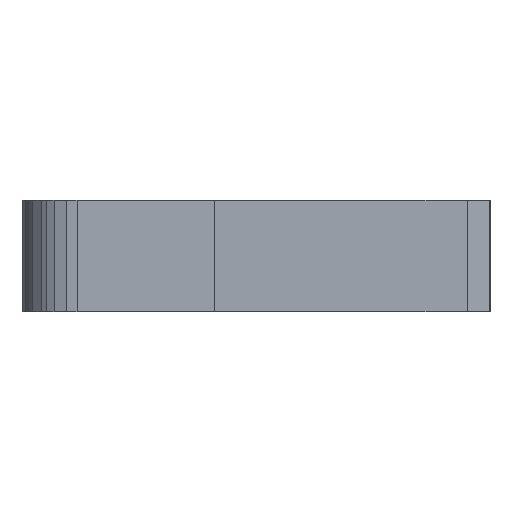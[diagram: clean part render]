
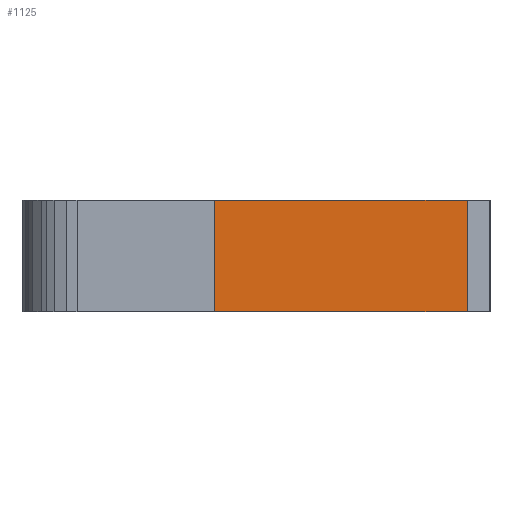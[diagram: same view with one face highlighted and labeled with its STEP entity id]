
A CAD part, left-side view. The second image highlights one B-rep face of the part: STEP entity #1125.
In plain terms, the highlighted planar face has unit normal (-1, 0, 0).
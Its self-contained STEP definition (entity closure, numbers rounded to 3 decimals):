
#72 = PLANE('',#73);
#73 = AXIS2_PLACEMENT_3D('',#74,#75,#76);
#74 = CARTESIAN_POINT('',(-2.801,-14.621,14.25));
#75 = DIRECTION('',(-0.,-0.,-1.));
#76 = DIRECTION('',(-1.,0.,0.));
#126 = PLANE('',#127);
#127 = AXIS2_PLACEMENT_3D('',#128,#129,#130);
#128 = CARTESIAN_POINT('',(-2.801,-14.621,11.83));
#129 = DIRECTION('',(-0.,-0.,-1.));
#130 = DIRECTION('',(-1.,0.,0.));
#1017 = PLANE('',#1018);
#1018 = AXIS2_PLACEMENT_3D('',#1019,#1020,#1021);
#1019 = CARTESIAN_POINT('',(-3.3,-20.5,11.83));
#1020 = DIRECTION('',(-0.707,-0.707,0.));
#1021 = DIRECTION('',(-0.707,0.707,0.));
#1055 = VERTEX_POINT('',#1056);
#1056 = CARTESIAN_POINT('',(-3.8,-20.,14.25));
#1077 = EDGE_CURVE('',#1078,#1055,#1080,.T.);
#1078 = VERTEX_POINT('',#1079);
#1079 = CARTESIAN_POINT('',(-3.8,-20.,11.83));
#1080 = SURFACE_CURVE('',#1081,(#1085,#1092),.PCURVE_S1.);
#1081 = LINE('',#1082,#1083);
#1082 = CARTESIAN_POINT('',(-3.8,-20.,11.83));
#1083 = VECTOR('',#1084,1.);
#1084 = DIRECTION('',(0.,0.,1.));
#1085 = PCURVE('',#1017,#1086);
#1086 = DEFINITIONAL_REPRESENTATION('',(#1087),#1091);
#1087 = LINE('',#1088,#1089);
#1088 = CARTESIAN_POINT('',(0.707,0.));
#1089 = VECTOR('',#1090,1.);
#1090 = DIRECTION('',(0.,-1.));
#1091 = ( GEOMETRIC_REPRESENTATION_CONTEXT(2) 
PARAMETRIC_REPRESENTATION_CONTEXT() REPRESENTATION_CONTEXT('2D SPACE',''
  ) );
#1092 = PCURVE('',#1093,#1098);
#1093 = PLANE('',#1094);
#1094 = AXIS2_PLACEMENT_3D('',#1095,#1096,#1097);
#1095 = CARTESIAN_POINT('',(-3.8,-20.,11.83));
#1096 = DIRECTION('',(-1.,0.,0.));
#1097 = DIRECTION('',(0.,1.,0.));
#1098 = DEFINITIONAL_REPRESENTATION('',(#1099),#1103);
#1099 = LINE('',#1100,#1101);
#1100 = CARTESIAN_POINT('',(0.,0.));
#1101 = VECTOR('',#1102,1.);
#1102 = DIRECTION('',(0.,-1.));
#1103 = ( GEOMETRIC_REPRESENTATION_CONTEXT(2) 
PARAMETRIC_REPRESENTATION_CONTEXT() REPRESENTATION_CONTEXT('2D SPACE',''
  ) );
#1125 = ADVANCED_FACE('',(#1126),#1093,.T.);
#1126 = FACE_BOUND('',#1127,.T.);
#1127 = EDGE_LOOP('',(#1128,#1129,#1152,#1180));
#1128 = ORIENTED_EDGE('',*,*,#1077,.T.);
#1129 = ORIENTED_EDGE('',*,*,#1130,.T.);
#1130 = EDGE_CURVE('',#1055,#1131,#1133,.T.);
#1131 = VERTEX_POINT('',#1132);
#1132 = CARTESIAN_POINT('',(-3.8,-14.5,14.25));
#1133 = SURFACE_CURVE('',#1134,(#1138,#1145),.PCURVE_S1.);
#1134 = LINE('',#1135,#1136);
#1135 = CARTESIAN_POINT('',(-3.8,-20.,14.25));
#1136 = VECTOR('',#1137,1.);
#1137 = DIRECTION('',(0.,1.,0.));
#1138 = PCURVE('',#1093,#1139);
#1139 = DEFINITIONAL_REPRESENTATION('',(#1140),#1144);
#1140 = LINE('',#1141,#1142);
#1141 = CARTESIAN_POINT('',(0.,-2.42));
#1142 = VECTOR('',#1143,1.);
#1143 = DIRECTION('',(1.,0.));
#1144 = ( GEOMETRIC_REPRESENTATION_CONTEXT(2) 
PARAMETRIC_REPRESENTATION_CONTEXT() REPRESENTATION_CONTEXT('2D SPACE',''
  ) );
#1145 = PCURVE('',#72,#1146);
#1146 = DEFINITIONAL_REPRESENTATION('',(#1147),#1151);
#1147 = LINE('',#1148,#1149);
#1148 = CARTESIAN_POINT('',(0.999,-5.379));
#1149 = VECTOR('',#1150,1.);
#1150 = DIRECTION('',(0.,1.));
#1151 = ( GEOMETRIC_REPRESENTATION_CONTEXT(2) 
PARAMETRIC_REPRESENTATION_CONTEXT() REPRESENTATION_CONTEXT('2D SPACE',''
  ) );
#1152 = ORIENTED_EDGE('',*,*,#1153,.F.);
#1153 = EDGE_CURVE('',#1154,#1131,#1156,.T.);
#1154 = VERTEX_POINT('',#1155);
#1155 = CARTESIAN_POINT('',(-3.8,-14.5,11.83));
#1156 = SURFACE_CURVE('',#1157,(#1161,#1168),.PCURVE_S1.);
#1157 = LINE('',#1158,#1159);
#1158 = CARTESIAN_POINT('',(-3.8,-14.5,11.83));
#1159 = VECTOR('',#1160,1.);
#1160 = DIRECTION('',(0.,0.,1.));
#1161 = PCURVE('',#1093,#1162);
#1162 = DEFINITIONAL_REPRESENTATION('',(#1163),#1167);
#1163 = LINE('',#1164,#1165);
#1164 = CARTESIAN_POINT('',(5.5,0.));
#1165 = VECTOR('',#1166,1.);
#1166 = DIRECTION('',(0.,-1.));
#1167 = ( GEOMETRIC_REPRESENTATION_CONTEXT(2) 
PARAMETRIC_REPRESENTATION_CONTEXT() REPRESENTATION_CONTEXT('2D SPACE',''
  ) );
#1168 = PCURVE('',#1169,#1174);
#1169 = PLANE('',#1170);
#1170 = AXIS2_PLACEMENT_3D('',#1171,#1172,#1173);
#1171 = CARTESIAN_POINT('',(-3.8,-14.5,11.83));
#1172 = DIRECTION('',(0.,-1.,0.));
#1173 = DIRECTION('',(-1.,0.,0.));
#1174 = DEFINITIONAL_REPRESENTATION('',(#1175),#1179);
#1175 = LINE('',#1176,#1177);
#1176 = CARTESIAN_POINT('',(0.,-0.));
#1177 = VECTOR('',#1178,1.);
#1178 = DIRECTION('',(0.,-1.));
#1179 = ( GEOMETRIC_REPRESENTATION_CONTEXT(2) 
PARAMETRIC_REPRESENTATION_CONTEXT() REPRESENTATION_CONTEXT('2D SPACE',''
  ) );
#1180 = ORIENTED_EDGE('',*,*,#1181,.F.);
#1181 = EDGE_CURVE('',#1078,#1154,#1182,.T.);
#1182 = SURFACE_CURVE('',#1183,(#1187,#1194),.PCURVE_S1.);
#1183 = LINE('',#1184,#1185);
#1184 = CARTESIAN_POINT('',(-3.8,-20.,11.83));
#1185 = VECTOR('',#1186,1.);
#1186 = DIRECTION('',(0.,1.,0.));
#1187 = PCURVE('',#1093,#1188);
#1188 = DEFINITIONAL_REPRESENTATION('',(#1189),#1193);
#1189 = LINE('',#1190,#1191);
#1190 = CARTESIAN_POINT('',(0.,0.));
#1191 = VECTOR('',#1192,1.);
#1192 = DIRECTION('',(1.,0.));
#1193 = ( GEOMETRIC_REPRESENTATION_CONTEXT(2) 
PARAMETRIC_REPRESENTATION_CONTEXT() REPRESENTATION_CONTEXT('2D SPACE',''
  ) );
#1194 = PCURVE('',#126,#1195);
#1195 = DEFINITIONAL_REPRESENTATION('',(#1196),#1200);
#1196 = LINE('',#1197,#1198);
#1197 = CARTESIAN_POINT('',(0.999,-5.379));
#1198 = VECTOR('',#1199,1.);
#1199 = DIRECTION('',(0.,1.));
#1200 = ( GEOMETRIC_REPRESENTATION_CONTEXT(2) 
PARAMETRIC_REPRESENTATION_CONTEXT() REPRESENTATION_CONTEXT('2D SPACE',''
  ) );
